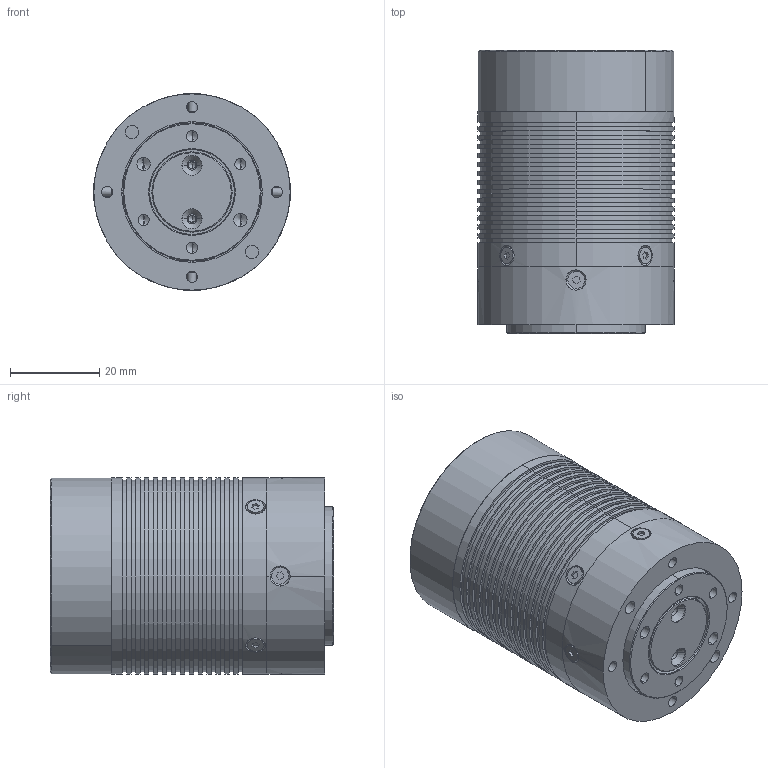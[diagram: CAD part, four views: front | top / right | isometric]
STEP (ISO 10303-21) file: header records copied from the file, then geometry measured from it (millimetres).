
FILE_DESCRIPTION (( 'STEP AP203' ), '1' );
FILE_NAME ('X2-P28-7.STEP', '2025-12-01T01:02:10', ( '' ), ( '' ), 'SwSTEP 2.0', 'SolidWorks 2020', '' );
FILE_SCHEMA (( 'CONFIG_CONTROL_DESIGN' ));
Length unit declared in the file: millimetre
Products named in the file (8): XMT.105.025; 内六角沉头螺丝 M2_M2x4  12.9级黑; XMT.105.017; 8MT.034.006; X2-P28-7; 8MT.013.028; XMT.105.009; XMT.104.009
Assembly tree (14 placements, depth 2):
  X2-P28-7
    8MT.034.006
    内六角沉头螺丝 M2_M2x4  12.9级黑  x8
    XMT.105.009
    XMT.105.017
    XMT.105.025
    8MT.013.028
    XMT.104.009
Bounding box: 44.01 x 63.5 x 44.01 mm (x, y, z)
Volume: 24068.1 mm3; surface area: 33525.5 mm2
Topology: 14 solids, 14 shells, 590 faces, 1429 edges, 897 vertices
Faces by surface type: cylinder 343, plane 162, cone 85
Entity records: 16473 total; most frequent: CARTESIAN_POINT 3328, DIRECTION 2781, ORIENTED_EDGE 2366, EDGE_CURVE 1183, AXIS2_PLACEMENT_3D 1150, VERTEX_POINT 757, CIRCLE 648, EDGE_LOOP 618
